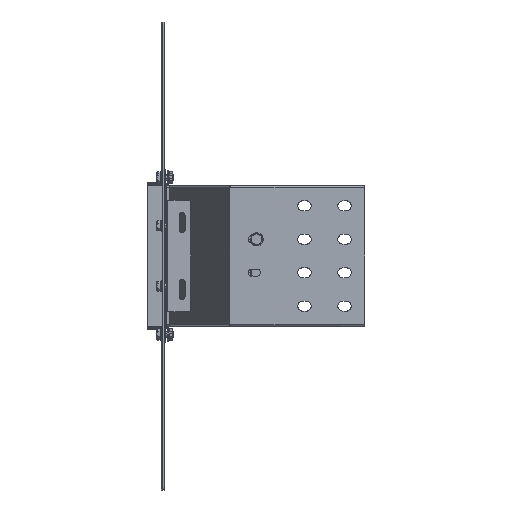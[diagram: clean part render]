
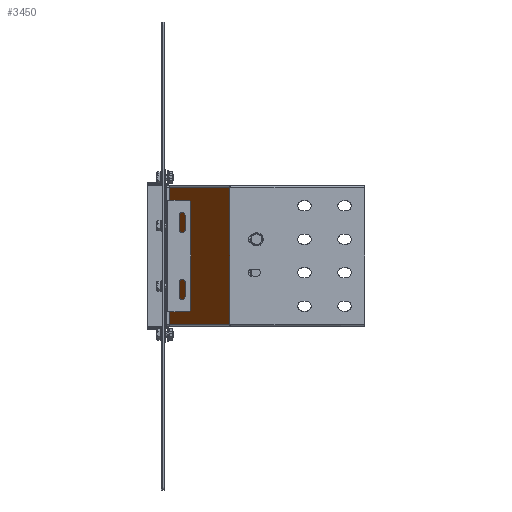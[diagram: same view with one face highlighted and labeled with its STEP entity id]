
A CAD part, front view. The second image highlights one B-rep face of the part: STEP entity #3450.
In plain terms, the highlighted planar face has unit normal (-0.916, -0.402, 0).
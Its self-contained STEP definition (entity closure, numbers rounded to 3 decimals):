
#3442=AXIS2_PLACEMENT_3D('Plane Axis2P3D',#3439,#3440,#3441) ;
#1854=CARTESIAN_POINT('Vertex',(98.138,-217.85,-102.15)) ;
#1868=CARTESIAN_POINT('Vertex',(98.138,-217.85,102.15)) ;
#1871=CARTESIAN_POINT('Line Origine',(98.138,-217.85,0.)) ;
#2656=CARTESIAN_POINT('Vertex',(8.138,-12.54,102.15)) ;
#2659=CARTESIAN_POINT('Line Origine',(52.39,-113.489,102.15)) ;
#2766=CARTESIAN_POINT('Vertex',(8.138,-12.54,-102.15)) ;
#2801=CARTESIAN_POINT('Line Origine',(52.39,-113.489,-102.15)) ;
#2843=CARTESIAN_POINT('Line Origine',(8.138,-12.54,0.)) ;
#3439=CARTESIAN_POINT('Axis2P3D Location',(98.885,-219.556,-102.15)) ;
#1872=DIRECTION('Vector Direction',(0.,0.,1.)) ;
#2660=DIRECTION('Vector Direction',(0.401,-0.916,0.)) ;
#2802=DIRECTION('Vector Direction',(0.401,-0.916,0.)) ;
#2844=DIRECTION('Vector Direction',(0.,0.,1.)) ;
#3440=DIRECTION('Axis2P3D Direction',(-0.916,-0.401,0.)) ;
#3441=DIRECTION('Axis2P3D XDirection',(0.,0.,1.)) ;
#1873=VECTOR('Line Direction',#1872,1.) ;
#2661=VECTOR('Line Direction',#2660,1.) ;
#2803=VECTOR('Line Direction',#2802,1.) ;
#2845=VECTOR('Line Direction',#2844,1.) ;
#3445=ORIENTED_EDGE('',*,*,#2663,.T.) ;
#3446=ORIENTED_EDGE('',*,*,#2847,.F.) ;
#3447=ORIENTED_EDGE('',*,*,#2805,.F.) ;
#3448=ORIENTED_EDGE('',*,*,#1875,.T.) ;
#3450=ADVANCED_FACE('N',(#3449),#3443,.T.) ;
#1875=EDGE_CURVE('',#1855,#1869,#1874,.T.) ;
#2663=EDGE_CURVE('',#1869,#2657,#2662,.F.) ;
#2805=EDGE_CURVE('',#1855,#2767,#2804,.F.) ;
#2847=EDGE_CURVE('',#2767,#2657,#2846,.T.) ;
#3444=EDGE_LOOP('',(#3445,#3446,#3447,#3448)) ;
#3449=FACE_OUTER_BOUND('',#3444,.T.) ;
#1874=LINE('Line',#1871,#1873) ;
#2662=LINE('Line',#2659,#2661) ;
#2804=LINE('Line',#2801,#2803) ;
#2846=LINE('Line',#2843,#2845) ;
#3443=PLANE('',#3442) ;
#1855=VERTEX_POINT('',#1854) ;
#1869=VERTEX_POINT('',#1868) ;
#2657=VERTEX_POINT('',#2656) ;
#2767=VERTEX_POINT('',#2766) ;
